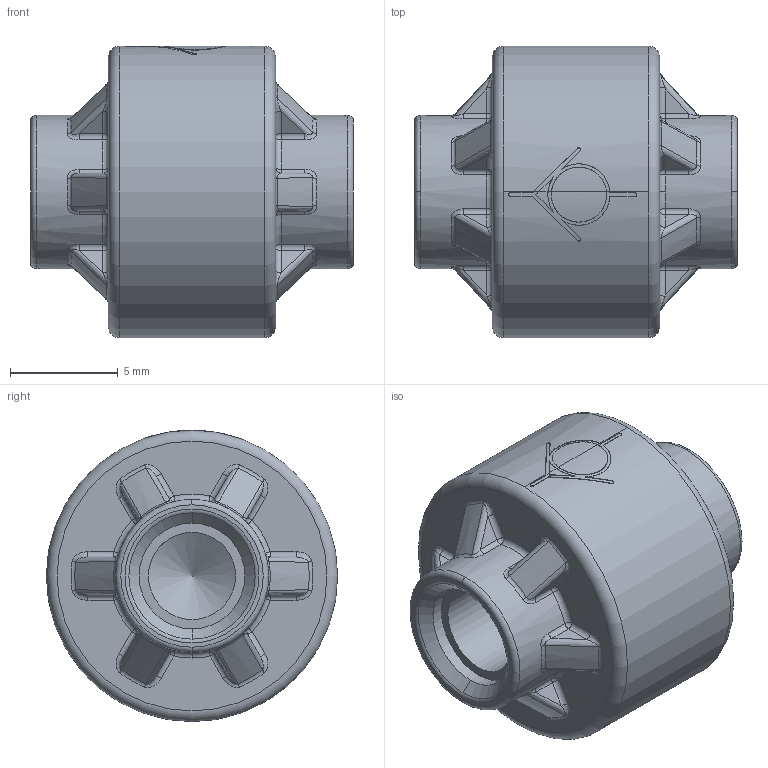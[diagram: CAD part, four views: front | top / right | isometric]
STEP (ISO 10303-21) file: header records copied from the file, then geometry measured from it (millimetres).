
FILE_DESCRIPTION(/* description */ ('SolidWorks IGES file using NURBS representation for surfaces '),/* implementation_level */ '2;1');
FILE_NAME(/* name */ 'K:\Normteile INVENTOR\Air-Logic\Check Valves\F-2804-404.IGS.ipt.stp',/* time_stamp */ '2020-05-27T10:36:39+02:00',/* author */ ('amarsh'),/* organization */ (''),/* preprocessor_version */ 'ST-DEVELOPER v18',/* originating_system */ 'Autodesk Inventor 2020',/* authorisation */ '');
FILE_SCHEMA (('AUTOMOTIVE_DESIGN { 1 0 10303 214 3 1 1 }'));
Length unit declared in the file: millimetre
Products named in the file (1): F-2804-404.IGS
Bounding box: 14.95 x 13.5 x 13.5 mm (x, y, z)
Surface area: 911.2 mm2 (no closed solid volume)
Topology: 0 solids, 2 shells, 273 faces, 657 edges, 376 vertices
Faces by surface type: bspline 85, cylinder 66, torus 46, plane 34, sphere 24, cone 18
Full cylindrical faces by diameter (mm): 4.039 x2, 4.9 x2, 7.1 x2
Entity records: 13571 total; most frequent: CARTESIAN_POINT 7415, ORIENTED_EDGE 1274, DIRECTION 1187, EDGE_CURVE 641, AXIS2_PLACEMENT_3D 521, VERTEX_POINT 376, CIRCLE 314, EDGE_LOOP 279
